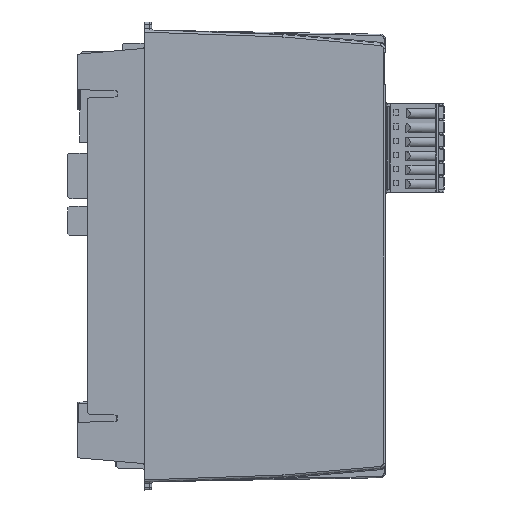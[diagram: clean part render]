
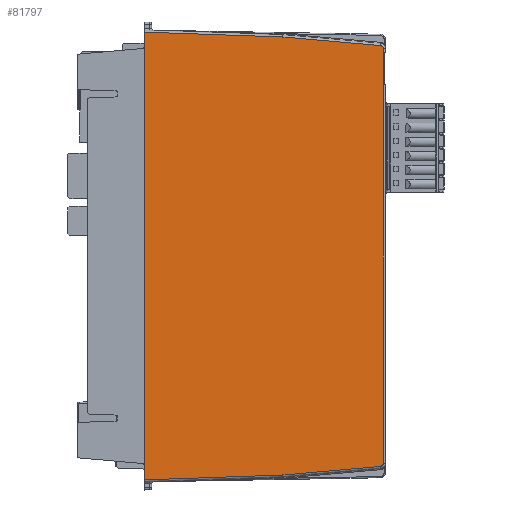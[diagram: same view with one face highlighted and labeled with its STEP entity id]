
A CAD part, left-side view. The second image highlights one B-rep face of the part: STEP entity #81797.
In plain terms, the highlighted planar face has unit normal (-1, -0.018, 0).
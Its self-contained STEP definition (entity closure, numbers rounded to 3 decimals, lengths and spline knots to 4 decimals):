
#541=ELLIPSE('',#86491,0.0315,0.0315);
#542=ELLIPSE('',#86492,0.0315,0.0315);
#3450=PLANE('',#86490);
#7490=FACE_OUTER_BOUND('',#11714,.T.);
#11714=EDGE_LOOP('',(#65893,#65894,#65895,#65896,#65897,#65898,#65899,#65900,
#65901,#65902));
#21601=LINE('',#125297,#30705);
#21820=LINE('',#126376,#30924);
#21821=LINE('',#126378,#30925);
#21822=LINE('',#126382,#30926);
#21823=LINE('',#126385,#30927);
#21824=LINE('',#126387,#30928);
#21825=LINE('',#126389,#30929);
#21826=LINE('',#126390,#30930);
#30705=VECTOR('',#100828,39.3701);
#30924=VECTOR('',#101217,39.3701);
#30925=VECTOR('',#101218,39.3701);
#30926=VECTOR('',#101221,39.3701);
#30927=VECTOR('',#101224,39.3701);
#30928=VECTOR('',#101225,39.3701);
#30929=VECTOR('',#101226,39.3701);
#30930=VECTOR('',#101227,39.3701);
#38275=VERTEX_POINT('',#125295);
#38276=VERTEX_POINT('',#125296);
#38490=VERTEX_POINT('',#126374);
#38491=VERTEX_POINT('',#126375);
#38492=VERTEX_POINT('',#126377);
#38493=VERTEX_POINT('',#126379);
#38494=VERTEX_POINT('',#126381);
#38495=VERTEX_POINT('',#126383);
#38496=VERTEX_POINT('',#126386);
#38497=VERTEX_POINT('',#126388);
#47835=EDGE_CURVE('',#38275,#38276,#21601,.T.);
#48140=EDGE_CURVE('',#38490,#38491,#21820,.T.);
#48141=EDGE_CURVE('',#38491,#38492,#21821,.T.);
#48142=EDGE_CURVE('',#38492,#38493,#541,.T.);
#48143=EDGE_CURVE('',#38493,#38494,#21822,.T.);
#48144=EDGE_CURVE('',#38494,#38495,#542,.T.);
#48145=EDGE_CURVE('',#38495,#38275,#21823,.T.);
#48146=EDGE_CURVE('',#38276,#38496,#21824,.T.);
#48147=EDGE_CURVE('',#38497,#38496,#21825,.T.);
#48148=EDGE_CURVE('',#38497,#38490,#21826,.T.);
#65893=ORIENTED_EDGE('',*,*,#48140,.T.);
#65894=ORIENTED_EDGE('',*,*,#48141,.T.);
#65895=ORIENTED_EDGE('',*,*,#48142,.T.);
#65896=ORIENTED_EDGE('',*,*,#48143,.T.);
#65897=ORIENTED_EDGE('',*,*,#48144,.T.);
#65898=ORIENTED_EDGE('',*,*,#48145,.T.);
#65899=ORIENTED_EDGE('',*,*,#47835,.T.);
#65900=ORIENTED_EDGE('',*,*,#48146,.T.);
#65901=ORIENTED_EDGE('',*,*,#48147,.F.);
#65902=ORIENTED_EDGE('',*,*,#48148,.T.);
#81797=ADVANCED_FACE('',(#7490),#3450,.T.);
#86490=AXIS2_PLACEMENT_3D('',#126373,#101215,#101216);
#86491=AXIS2_PLACEMENT_3D('',#126380,#101219,#101220);
#86492=AXIS2_PLACEMENT_3D('',#126384,#101222,#101223);
#100828=DIRECTION('',(-0.017,0.999,0.035));
#101215=DIRECTION('center_axis',(-1.,-0.017,
0.));
#101216=DIRECTION('ref_axis',(-0.017,1.,0.));
#101217=DIRECTION('',(0.017,-0.999,0.035));
#101218=DIRECTION('',(0.017,-0.996,0.087));
#101219=DIRECTION('center_axis',(-1.,-0.017,
0.));
#101220=DIRECTION('ref_axis',(0.017,-1.,0.));
#101221=DIRECTION('',(0.,0.,1.));
#101222=DIRECTION('center_axis',(-1.,-0.017,
0.));
#101223=DIRECTION('ref_axis',(0.017,-1.,0.));
#101224=DIRECTION('',(-0.017,0.996,0.087));
#101225=DIRECTION('',(0.,0.,-1.));
#101226=DIRECTION('',(0.,0.,1.));
#101227=DIRECTION('',(0.,0.,-1.));
#125295=CARTESIAN_POINT('',(0.0007,-2.2205,0.0616));
#125296=CARTESIAN_POINT('',(-0.0227,-0.8827,0.1083));
#125297=CARTESIAN_POINT('',(-0.0282,-0.5654,0.1194));
#126373=CARTESIAN_POINT('Origin',(-0.0296,-0.489,
-2.0669));
#126374=CARTESIAN_POINT('',(-0.0227,-0.8827,-4.2421));
#126375=CARTESIAN_POINT('',(0.0007,-2.2205,-4.1954));
#126376=CARTESIAN_POINT('',(-0.0282,-0.5654,-4.2532));
#126377=CARTESIAN_POINT('',(0.0174,-3.1772,-4.1117));
#126378=CARTESIAN_POINT('',(-0.0261,-0.6869,-4.3296));
#126379=CARTESIAN_POINT('',(0.0179,-3.2059,-4.0803));
#126380=CARTESIAN_POINT('Origin',(0.0173,-3.1744,
-4.0803));
#126381=CARTESIAN_POINT('',(0.0179,-3.2059,-0.0535));
#126382=CARTESIAN_POINT('',(0.0179,-3.2059,-0.0535));
#126383=CARTESIAN_POINT('',(0.0174,-3.1772,-0.0221));
#126384=CARTESIAN_POINT('Origin',(0.0173,-3.1744,
-0.0535));
#126385=CARTESIAN_POINT('',(-0.0261,-0.6869,0.1957));
#126386=CARTESIAN_POINT('',(-0.0227,-0.8827,-0.0312));
#126387=CARTESIAN_POINT('',(-0.0227,-0.8827,0.128));
#126388=CARTESIAN_POINT('',(-0.0227,-0.8827,-4.1027));
#126389=CARTESIAN_POINT('',(-0.0227,-0.8827,-7.5932));
#126390=CARTESIAN_POINT('',(-0.0227,-0.8827,0.128));
